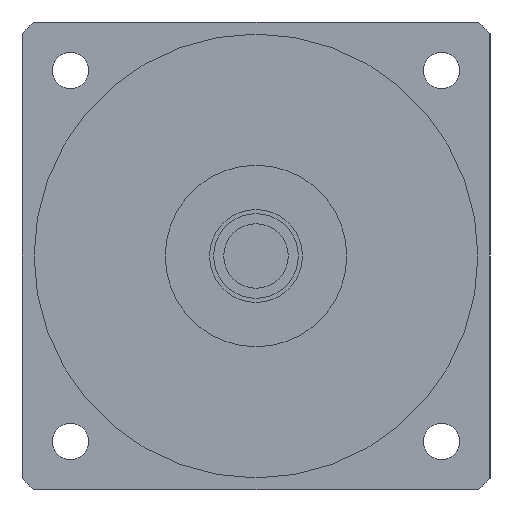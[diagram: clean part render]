
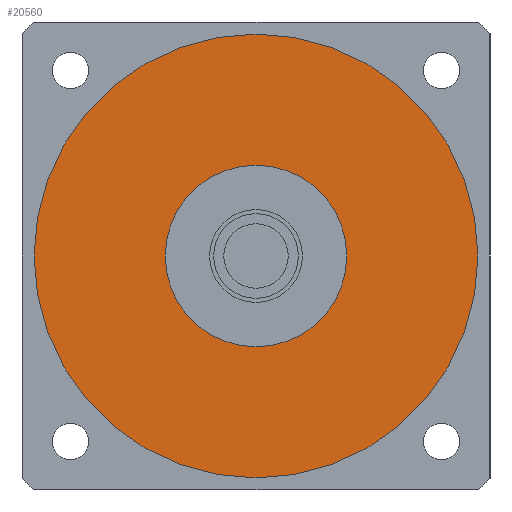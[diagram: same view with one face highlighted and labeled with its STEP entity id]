
A CAD part, left-side view. The second image highlights one B-rep face of the part: STEP entity #20560.
In plain terms, the highlighted planar face has unit normal (-1, 0, 0) as drawn and (0, 0, -1) by its records, which use the part's own axes.
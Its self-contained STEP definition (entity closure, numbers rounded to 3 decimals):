
#19980=CARTESIAN_POINT('',(55.,0.,-38.5));
#19990=VERTEX_POINT('',#19980);
#20080=CARTESIAN_POINT('',(-55.,0.,-38.5));
#20090=VERTEX_POINT('',#20080);
#20120=CARTESIAN_POINT('',(0.,0.,
-38.5));
#20130=DIRECTION('',(0.,0.,1.));
#20140=DIRECTION('',(0.,1.,0.));
#20150=AXIS2_PLACEMENT_3D('',#20120,#20130,#20140);
#20160=CIRCLE('',#20150,55.);
#20170=CARTESIAN_POINT('',(0.,55.,-38.5));
#20180=VERTEX_POINT('',#20170);
#20190=EDGE_CURVE('',#20180,#20090,#20160,.T.);
#20210=EDGE_CURVE('',#19990,#20180,#20160,.T.);
#20260=CARTESIAN_POINT('',(0.,0.,
-38.5));
#20270=DIRECTION('',(0.,0.,1.));
#20280=DIRECTION('',(-1.,0.,0.));
#20290=AXIS2_PLACEMENT_3D('',#20260,#20270,#20280);
#20300=PLANE('',#20290);
#20310=ORIENTED_EDGE('',*,*,#20190,.F.);
#20320=EDGE_CURVE('',#20090,#19990,#20160,.T.);
#20330=ORIENTED_EDGE('',*,*,#20320,.F.);
#20340=ORIENTED_EDGE('',*,*,#20210,.F.);
#20350=EDGE_LOOP('',(#20340,#20330,#20310));
#20360=FACE_OUTER_BOUND('',#20350,.T.);
#20370=CARTESIAN_POINT('',(0.,0.,
-38.5));
#20380=DIRECTION('',(0.,0.,1.));
#20390=DIRECTION('',(0.,1.,0.));
#20400=AXIS2_PLACEMENT_3D('',#20370,#20380,#20390);
#20410=CIRCLE('',#20400,22.5);
#20420=CARTESIAN_POINT('',(-22.5,0.,-38.5));
#20430=VERTEX_POINT('',#20420);
#20440=CARTESIAN_POINT('',(22.5,0.,-38.5));
#20450=VERTEX_POINT('',#20440);
#20460=EDGE_CURVE('',#20430,#20450,#20410,.T.);
#20470=ORIENTED_EDGE('',*,*,#20460,.T.);
#20480=CARTESIAN_POINT('',(0.,22.5,-38.5));
#20490=VERTEX_POINT('',#20480);
#20500=EDGE_CURVE('',#20490,#20430,#20410,.T.);
#20510=ORIENTED_EDGE('',*,*,#20500,.T.);
#20520=EDGE_CURVE('',#20450,#20490,#20410,.T.);
#20530=ORIENTED_EDGE('',*,*,#20520,.T.);
#20540=EDGE_LOOP('',(#20530,#20510,#20470));
#20550=FACE_BOUND('',#20540,.T.);
#20560=ADVANCED_FACE('',(#20360,#20550),#20300,.F.);
